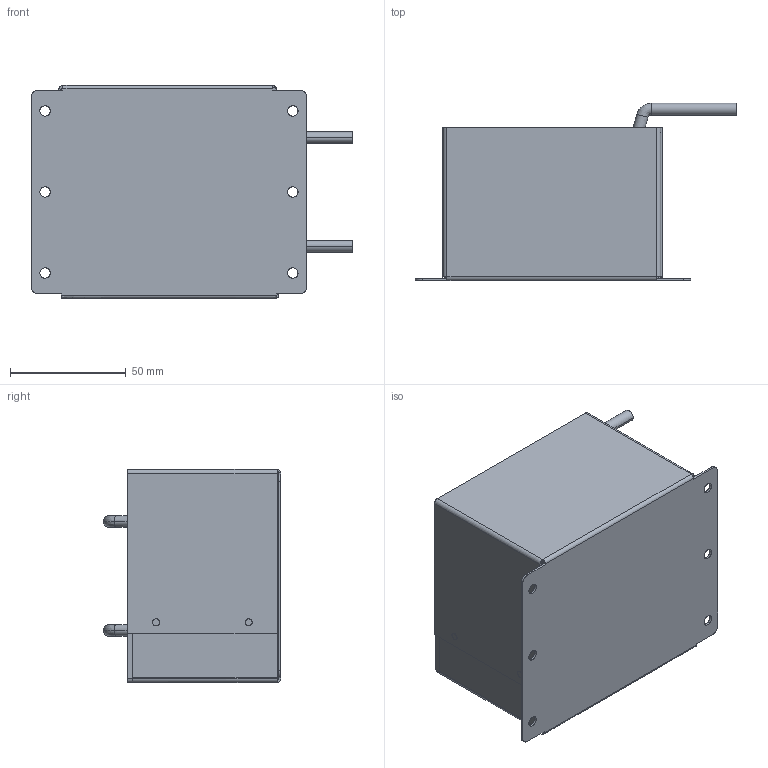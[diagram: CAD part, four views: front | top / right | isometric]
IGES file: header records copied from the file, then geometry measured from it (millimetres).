
Start section: SolidWorks IGES file using analytic representation for surfaces
Global section: file name: 18H\\10.106.230.1\r&d file\05_COMP\02_Mechanical\10_Others\PV_RT 81\网络用3D模型\灌封模型\S-3KW-G-DCL\S-3KW_G_DCL总装.IGS; native system: SolidWorks 2009; preprocessor: SolidWorks 2009; author: 钱雅婧,, ; organization: 11; date: 120507.163551; units: millimetre
Bounding box: 138.9 x 76.5 x 92 mm (x, y, z)
Surface area: 117558.7 mm2 (no closed solid volume)
Topology: 0 solids, 0 shells, 114 faces, 856 edges, 856 vertices
Faces by surface type: bspline 66, revolution 48
